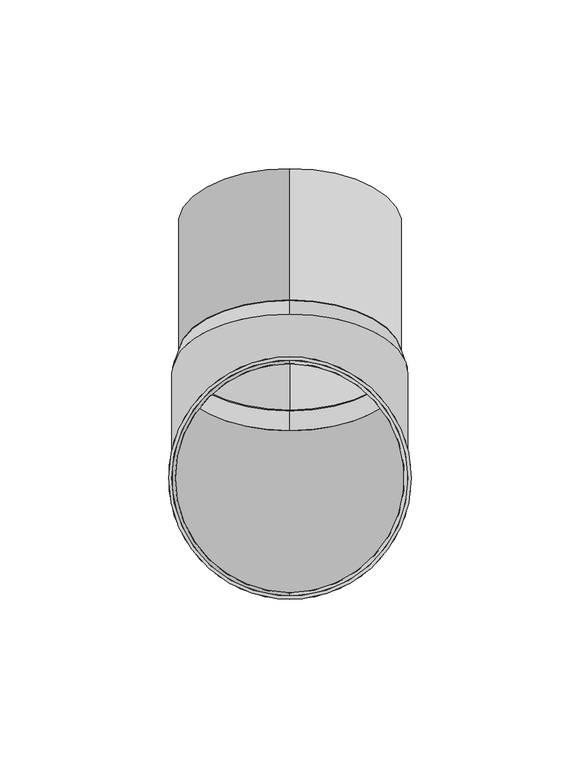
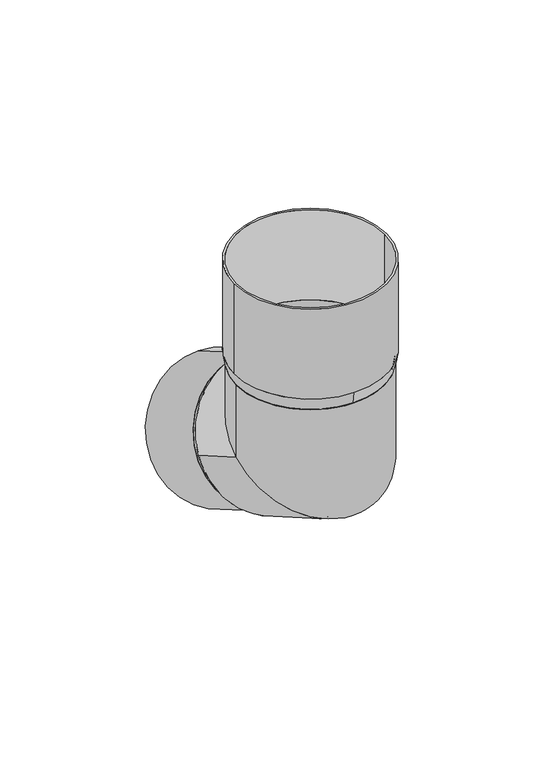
"""IFC4 building model written with IfcOpenShell, lengths in millimetres: proxy geometry, GROVIK_Downpipe_Knee : N70_60°_Down."""

import ifcopenshell
import ifcopenshell.guid

model = None  # the IFC model being written
_history = None  # IfcOwnerHistory: only IFC2X3 demands one
_inside = {}  # id of a spatial element -> (the spatial element, [elements in it])
_under = {}  # id of a project, library or spatial element -> (it, [spatial elements below it])
_declared = {}  # id of a project -> (the project, [libraries it declares])
_typed = {}  # id of a type object -> (the type object, [elements of that type])
_made_of = {}  # id of a material, layer set ... -> (it, [elements and type objects made of it])


def new_model(schema):
    """Start an empty IFC model of exactly this schema.

    Asked for "IFC4X3", IfcOpenShell would pick the latest addendum, in which some entities
    have other attributes; the version numbers below select the first issue.
    IFC2X3 requires an IfcOwnerHistory on every rooted entity: one is made here for all.
    """
    global model, _history
    if schema == "IFC4X3":
        model = ifcopenshell.file(schema_version=(4, 3, 0, 0))
    else:
        model = ifcopenshell.file(schema=schema)
    _inside.clear()
    _under.clear()
    _declared.clear()
    _typed.clear()
    _made_of.clear()
    _history = None
    if model.schema == "IFC2X3":
        org = make("IfcOrganization", Name="unknown")
        user = make(
            "IfcPersonAndOrganization",
            ThePerson=make("IfcPerson", FamilyName="unknown"),
            TheOrganization=org,
        )
        app = make(
            "IfcApplication",
            ApplicationDeveloper=org,
            Version="unknown",
            ApplicationFullName="unknown",
            ApplicationIdentifier="unknown",
        )
        _history = make(
            "IfcOwnerHistory",
            OwningUser=user,
            OwningApplication=app,
            ChangeAction="ADDED",
            CreationDate=0,
        )
    return model


def make(cls, **values):
    """One entity of the class cls with the attributes given. An attribute that is None is left unset."""
    return model.create_entity(
        cls, **{name: value for name, value in values.items() if value is not None}
    )


def rooted(cls, **values):
    """An entity with a GlobalId (a new one), such as an element, a storey or a relation."""
    return make(cls, GlobalId=ifcopenshell.guid.new(), OwnerHistory=_history, **values)


def si_unit(unit_type, name, prefix=None):
    """IfcSIUnit, for example si_unit("LENGTHUNIT", "METRE", prefix="MILLI")."""
    return make("IfcSIUnit", UnitType=unit_type, Prefix=prefix, Name=name)


def assignment(units):
    """IfcUnitAssignment: the units of a project."""
    return None if units is None else make("IfcUnitAssignment", Units=units)


def point(xyz):
    """IfcCartesianPoint."""
    return None if xyz is None else make("IfcCartesianPoint", Coordinates=xyz)


def direction(xyz):
    """IfcDirection."""
    return None if xyz is None else make("IfcDirection", DirectionRatios=xyz)


def frame(location, z_axis=None, x_axis=None):
    """IfcAxis2Placement3D, a coordinate frame: its origin and axes. An axis left out is left unset."""
    return make(
        "IfcAxis2Placement3D",
        Location=point(location),
        Axis=direction(z_axis),
        RefDirection=direction(x_axis),
    )


def frame_2d(location, x_axis=None):
    """IfcAxis2Placement2D, a coordinate frame in the plane: its origin and x axis."""
    return make(
        "IfcAxis2Placement2D", Location=point(location), RefDirection=direction(x_axis)
    )


def origin():
    """The frame at (0, 0, 0) with its axes left unset."""
    return frame((0.0, 0.0, 0.0))


def origin_with_axes():
    """The frame at (0, 0, 0) with the z axis (0, 0, 1) and the x axis (1, 0, 0) written out."""
    return frame((0.0, 0.0, 0.0), z_axis=(0.0, 0.0, 1.0), x_axis=(1.0, 0.0, 0.0))


def origin_2d():
    """The frame at (0, 0) in the plane with its x axis left unset."""
    return frame_2d((0.0, 0.0))


def place(relative_to, where):
    """IfcLocalPlacement: puts the frame where relative to a parent placement (None: the world)."""
    return make(
        "IfcLocalPlacement", PlacementRelTo=relative_to, RelativePlacement=where
    )


def context(
    kind, dimensions, precision=None, world=None, true_north=None, identifier=None
):
    """IfcGeometricRepresentationContext, for example the 3D "Model" context."""
    return make(
        "IfcGeometricRepresentationContext",
        ContextIdentifier=identifier,
        ContextType=kind,
        CoordinateSpaceDimension=dimensions,
        Precision=precision,
        WorldCoordinateSystem=world,
        TrueNorth=true_north,
    )


def project(units=None, contexts=None):
    """IfcProject with its units and contexts."""
    return rooted(
        "IfcProject",
        Name="project",
        RepresentationContexts=contexts,
        UnitsInContext=assignment(units),
    )


def spatial(cls, under=None, at=None, **own):
    """A site, building, storey or space (cls), placed at a placement, below another one or the project."""
    s = rooted(cls, ObjectPlacement=at, **own)
    if under is not None:
        _under.setdefault(under.id(), (under, []))[1].append(s)
    return s


def polyline(points):
    """IfcPolyline through the points."""
    return make("IfcPolyline", Points=[point(p) for p in points])


def circle_curve(where, radius):
    """IfcCircle in the frame where."""
    return make("IfcCircle", Position=where, Radius=radius)


def ellipse_curve(where, semi_axis1, semi_axis2):
    """IfcEllipse in the frame where."""
    return make(
        "IfcEllipse", Position=where, SemiAxis1=semi_axis1, SemiAxis2=semi_axis2
    )


def trimmed(basis, trim1, trim2, sense, master):
    """IfcTrimmedCurve: the piece of a basis curve between two trims."""
    return make(
        "IfcTrimmedCurve",
        BasisCurve=basis,
        Trim1=trim1,
        Trim2=trim2,
        SenseAgreement=sense,
        MasterRepresentation=master,
    )


def segment(curve, same_sense, transition):
    """IfcCompositeCurveSegment."""
    return make(
        "IfcCompositeCurveSegment",
        Transition=transition,
        SameSense=same_sense,
        ParentCurve=curve,
    )


def composite_curve(segments, self_intersect=None):
    """IfcCompositeCurve: segments joined end to end."""
    return make("IfcCompositeCurve", Segments=segments, SelfIntersect=self_intersect)


def outline(outer, holes=None, kind="AREA"):
    """IfcArbitraryClosedProfileDef: a profile drawn as a closed curve; with holes, ...WithVoids."""
    if holes is None:
        return make("IfcArbitraryClosedProfileDef", ProfileType=kind, OuterCurve=outer)
    return make(
        "IfcArbitraryProfileDefWithVoids",
        ProfileType=kind,
        OuterCurve=outer,
        InnerCurves=holes,
    )


def extrude(swept, where, along, depth):
    """IfcExtrudedAreaSolid: the profile swept, set in the frame where, extruded along a direction by depth."""
    return make(
        "IfcExtrudedAreaSolid",
        SweptArea=swept,
        Position=where,
        ExtrudedDirection=direction(along),
        Depth=depth,
    )


def shape(context_of_items, identifier, shape_type, items):
    """IfcShapeRepresentation: the items that make up one representation, for example the "Body"."""
    return make(
        "IfcShapeRepresentation",
        ContextOfItems=context_of_items,
        RepresentationIdentifier=identifier,
        RepresentationType=shape_type,
        Items=items,
    )


def source(mapping_origin, context_of_items, identifier, shape_type, items):
    """IfcRepresentationMap: a shape defined once, which mapped items show again and again."""
    return make(
        "IfcRepresentationMap",
        MappingOrigin=mapping_origin,
        MappedRepresentation=shape(context_of_items, identifier, shape_type, items),
    )


def transform(
    local_origin,
    x_axis=None,
    y_axis=None,
    z_axis=None,
    scale=None,
    scale2=None,
    scale3=None,
    uniform=True,
):
    """IfcCartesianTransformationOperator3D, or its non-uniform kind. x_axis, y_axis, z_axis: its Axis1, 2, 3."""
    if uniform:
        return make(
            "IfcCartesianTransformationOperator3D",
            Axis1=direction(x_axis),
            Axis2=direction(y_axis),
            LocalOrigin=point(local_origin),
            Scale=scale,
            Axis3=direction(z_axis),
        )
    return make(
        "IfcCartesianTransformationOperator3DnonUniform",
        Axis1=direction(x_axis),
        Axis2=direction(y_axis),
        LocalOrigin=point(local_origin),
        Scale=scale,
        Axis3=direction(z_axis),
        Scale2=scale2,
        Scale3=scale3,
    )


def mapped(mapping_source, mapping_target):
    """IfcMappedItem: shows the shape of a source again, moved by a transform."""
    return make(
        "IfcMappedItem", MappingSource=mapping_source, MappingTarget=mapping_target
    )


def made_of(thing, what):
    """Note that an element or type object is made of a material, layer set ...; save() writes the relation."""
    if what is not None:
        _made_of.setdefault(what.id(), (what, []))[1].append(thing)
    return thing


def element(
    cls,
    number,
    at=None,
    inside=None,
    cuts=None,
    type_object=None,
    material=None,
    context=None,
    identifier="Body",
    shape_type=None,
    held_by="IfcProductDefinitionShape",
    body=None,
    shapes=None,
    **own,
):
    """One element of the class cls, such as IfcWall. Its Tag is "e" and its number.

    at: its placement. inside: the storey or other place that contains it. cuts: it is an
    opening in that element (IfcRelVoidsElement). A single representation is given by context,
    identifier, shape_type and body (its items); several are given by shapes. held_by: the class
    of the entity that holds the representations. save() writes the other relations.
    """
    e = rooted(cls, Tag="e%d" % number, ObjectPlacement=at, **own)
    if body is not None:
        shapes = [shape(context, identifier, shape_type, body)]
    if shapes is not None:
        e.Representation = make(held_by, Representations=shapes)
    if inside is not None:
        _inside.setdefault(inside.id(), (inside, []))[1].append(e)
    if cuts is not None:
        rooted(
            "IfcRelVoidsElement", RelatingBuildingElement=cuts, RelatedOpeningElement=e
        )
    if type_object is not None:
        _typed.setdefault(type_object.id(), (type_object, []))[1].append(e)
    return made_of(e, material)


def aggregate(whole, parts):
    """IfcRelAggregates: a whole, such as a stair, and the parts it consists of."""
    return rooted("IfcRelAggregates", RelatingObject=whole, RelatedObjects=parts)


def save(model, path):
    """Write the relations noted so far, then the file.

    IfcRelAggregates (storeys below a building ...), IfcRelContainedInSpatialStructure (elements
    in a storey), IfcRelDefinesByType, IfcRelAssociatesMaterial and IfcRelDeclares: one each for
    every whole, place, type object, material and project.
    """
    for whole, parts in _under.values():
        aggregate(whole, parts)
    for where, things in _inside.values():
        rooted(
            "IfcRelContainedInSpatialStructure",
            RelatedElements=things,
            RelatingStructure=where,
        )
    for kind, things in _typed.values():
        rooted("IfcRelDefinesByType", RelatedObjects=things, RelatingType=kind)
    for what, things in _made_of.values():
        rooted("IfcRelAssociatesMaterial", RelatedObjects=things, RelatingMaterial=what)
    for by, libraries in _declared.values():
        rooted("IfcRelDeclares", RelatingContext=by, RelatedDefinitions=libraries)
    model.write(path)


def plane_surface(at):
    """IfcPlane: the flat surface through the origin of the frame at, square to its z axis."""
    return make("IfcPlane", Position=at)


def cylinder_surface(at, radius):
    """IfcCylindricalSurface: all points at the distance radius from the z axis of the frame at."""
    return make("IfcCylindricalSurface", Position=at, Radius=radius)


def revolved_surface(curve, axis_point, axis_direction):
    """IfcSurfaceOfRevolution: the curve turned about the line through axis_point along axis_direction."""
    return make(
        "IfcSurfaceOfRevolution",
        SweptCurve=make("IfcArbitraryOpenProfileDef", ProfileType="CURVE", Curve=curve),
        AxisPosition=make("IfcAxis1Placement", Location=point(axis_point), Axis=direction(axis_direction)),
    )


def advanced_brep(points, edges, surfaces, faces):
    """IfcAdvancedBrep: a solid bounded by faces that lie on surfaces and meet in shared edges.

    An edge is (start, end): straight between two places in points (the first is 0);
    or (start, end, curve); or (start, end, curve, False) where it runs against its curve.
    A face is (place in surfaces, loops), or (place, loops, False) where it looks against
    its surface's normal. A loop lists edges by number (the first is 1), with a minus sign
    where the edge is run from its end to its start. The first loop is the outer one.
    """
    corners = [point(p) for p in points]
    vertices = [make("IfcVertexPoint", VertexGeometry=c) for c in corners]
    made = []
    for start, end, *more in edges:
        made.append(
            make(
                "IfcEdgeCurve",
                EdgeStart=vertices[start],
                EdgeEnd=vertices[end],
                EdgeGeometry=more[0] if more else make("IfcPolyline", Points=[corners[start], corners[end]]),
                SameSense=more[1] if len(more) > 1 else True,
            )
        )
    hull = []
    for where, loops, *sense in faces:
        bounds = []
        for j, loop in enumerate(loops):
            ring = [make("IfcOrientedEdge", EdgeElement=made[abs(k) - 1], Orientation=k > 0) for k in loop]
            bounds.append(
                make(
                    "IfcFaceOuterBound" if j == 0 else "IfcFaceBound",
                    Bound=make("IfcEdgeLoop", EdgeList=ring),
                    Orientation=True,
                )
            )
        hull.append(make("IfcAdvancedFace", Bounds=bounds, FaceSurface=surfaces[where], SameSense=sense[0] if sense else True))
    return make("IfcAdvancedBrep", Outer=make("IfcClosedShell", CfsFaces=hull))


def generic_models_3fac9458(model_context):
    return source(origin(), model_context, "Body", "SolidModel", [
        extrude(outline(composite_curve([segment(trimmed(circle_curve(origin_2d(), 36.0), [point((-36.0, 0.0))], [point((36.0, 0.0))], False, "CARTESIAN"), True, "CONTINUOUS"), segment(trimmed(circle_curve(origin_2d(), 36.0), [point((36.0, 0.0))], [point((-36.0, 0.0))], False, "CARTESIAN"), True, "CONTINUOUS")], self_intersect=False), holes=[composite_curve([segment(trimmed(circle_curve(origin_2d(), 35.0), [point((-35.0, 0.0))], [point((35.0, 0.0))], True, "CARTESIAN"), True, "CONTINUOUS"), segment(trimmed(circle_curve(origin_2d(), 35.0), [point((35.0, 0.0))], [point((-35.0, 0.0))], True, "CARTESIAN"), True, "CONTINUOUS")], self_intersect=False)]), frame((0.0, 0.0, 6.0), z_axis=(0.0, 0.0, 1.0), x_axis=(1.0, 0.0, 0.0)), (0.0, 0.0, 1.0), 45.0),
        advanced_brep(
        [(-35.0, 0.0, 0.0), (35.0, 0.0, 0.0), (-34.0, 0.0, 0.0), (34.0, 0.0, 0.0), (-34.0, 0.0, -35.9), (34.0, 0.0, -35.9), (-35.0, 0.0, -35.9), (35.0, 0.0, -35.9), (-35.0, 31.090312, -53.85), (35.0, 31.090312, -53.85), (-34.0, 31.090312, -53.85), (34.0, 31.090312, -53.85)],
        [
            (0, 1, circle_curve(origin_with_axes(), 35.0)),
            (1, 0, circle_curve(origin_with_axes(), 35.0)),
            (2, 3, circle_curve(frame((0.0, 0.0, 0.0), z_axis=(0.0, 0.0, -1.0), x_axis=(1.0, 0.0, 0.0)), 34.0)),
            (3, 2, circle_curve(frame((0.0, 0.0, 0.0), z_axis=(0.0, 0.0, -1.0), x_axis=(1.0, 0.0, 0.0)), 34.0)),
            (2, 4),
            (4, 5, ellipse_curve(frame((0.0, 0.0, -35.9), z_axis=(0.0, 0.49999999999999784, -0.86602540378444), x_axis=(0.0, -0.86602540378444, -0.49999999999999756)), 39.2598183, 34.0)),
            (5, 3),
            (5, 4, ellipse_curve(frame((0.0, 0.0, -35.9), z_axis=(0.0, 0.49999999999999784, -0.86602540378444), x_axis=(0.0, -0.86602540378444, -0.49999999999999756)), 39.2598183, 34.0)),
            (0, 6),
            (6, 7, ellipse_curve(frame((0.0, 0.0, -35.9), z_axis=(0.0, -0.49999999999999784, 0.86602540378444), x_axis=(0.0, 0.86602540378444, 0.49999999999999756)), 40.4145188, 35.0)),
            (7, 1),
            (7, 6, ellipse_curve(frame((0.0, 0.0, -35.9), z_axis=(0.0, -0.49999999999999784, 0.86602540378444), x_axis=(0.0, 0.86602540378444, 0.49999999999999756)), 40.4145188, 35.0)),
            (8, 9, circle_curve(frame((0.0, 31.090312, -53.85), z_axis=(0.0, 0.866025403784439, -0.4999999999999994), x_axis=(1.0, 0.0, 0.0)), 35.0)),
            (9, 8, circle_curve(frame((0.0, 31.090312, -53.85), z_axis=(0.0, 0.866025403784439, -0.4999999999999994), x_axis=(1.0, 0.0, 0.0)), 35.0)),
            (10, 11, circle_curve(frame((0.0, 31.090312, -53.85), z_axis=(0.0, -0.866025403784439, 0.4999999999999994), x_axis=(1.0, 0.0, 0.0)), 34.0)),
            (11, 10, circle_curve(frame((0.0, 31.090312, -53.85), z_axis=(0.0, -0.866025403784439, 0.4999999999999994), x_axis=(1.0, 0.0, 0.0)), 34.0)),
            (4, 10),
            (11, 5),
            (6, 8),
            (9, 7),
        ],
        [
            plane_surface(origin_with_axes()),
            revolved_surface(polyline([(34.0, 0.0, -55.5299091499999), (34.0, 0.0, 0.0)]), (0.0, 0.0, 0.0), (0.0, 0.0, -1.0)),
            cylinder_surface(origin_with_axes(), 35.0),
            plane_surface(frame((0.0, 31.090312, -53.85), z_axis=(0.0, 0.866025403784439, -0.4999999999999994), x_axis=(1.0, 0.0, 0.0))),
            revolved_surface(polyline([(34.0, 31.090311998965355, -53.85000000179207), (34.0, -16.99999999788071, -26.08504542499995)]), (0.0, 0.0, -35.9), (0.0, 0.866025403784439, -0.4999999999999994)),
            cylinder_surface(frame((0.0, 0.0, -35.9), z_axis=(0.0, -0.866025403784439, 0.4999999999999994), x_axis=(1.0, 0.0, 0.0)), 35.0),
        ],
        [
            (0, [[1, 2], [3, 4]]),
            (1, [[-3, 5, 6, 7]]),
            (1, [[-4, -7, 8, -5]]),
            (2, [[-1, 9, 10, 11]]),
            (2, [[-2, -11, 12, -9]]),
            (3, [[13, 14], [15, 16]]),
            (4, [[-6, 17, -16, 18]]),
            (4, [[-8, -18, -15, -17]]),
            (5, [[-10, 19, -14, 20]]),
            (5, [[-12, -20, -13, -19]]),
        ],
    ),
        extrude(outline(composite_curve([segment(trimmed(circle_curve(origin_2d(), 33.2), [point((0.0, 33.2))], [point((0.0, -33.2))], False, "CARTESIAN"), True, "CONTINUOUS"), segment(trimmed(circle_curve(origin_2d(), 33.2), [point((0.0, -33.2))], [point((0.0, 33.2))], False, "CARTESIAN"), True, "CONTINUOUS")], self_intersect=False), holes=[composite_curve([segment(trimmed(circle_curve(origin_2d(), 32.2), [point((0.0, 32.2))], [point((0.0, -32.2))], True, "CARTESIAN"), True, "CONTINUOUS"), segment(trimmed(circle_curve(origin_2d(), 32.2), [point((0.0, -32.2))], [point((0.0, 32.2))], True, "CARTESIAN"), True, "CONTINUOUS")], self_intersect=False)]), frame((0.0, 75.2576076, -79.35), z_axis=(0.0, -0.8660254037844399, 0.4999999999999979), x_axis=(1.0, 0.0, 0.0)), (0.0, 0.0, 1.0), 45.0),
        advanced_brep(
        [(0.0, 36.0, 6.0), (0.0, -36.0, 6.0), (0.0, 35.0, 6.0), (0.0, -35.0, 6.0), (0.0, 35.0, 0.0), (0.0, -35.0, 0.0), (0.0, -34.0, 0.0), (0.0, 34.0, 0.0)],
        [
            (0, 1, circle_curve(frame((0.0, 0.0, 6.0), z_axis=(0.0, 0.0, 1.0), x_axis=(0.0, 1.0, 0.0)), 36.0)),
            (1, 0, circle_curve(frame((0.0, 0.0, 6.0), z_axis=(0.0, 0.0, 1.0), x_axis=(0.0, -1.0, 0.0)), 36.0)),
            (2, 3, circle_curve(frame((0.0, 0.0, 6.0), z_axis=(0.0, 0.0, -1.0), x_axis=(0.0, -1.0, 0.0)), 35.0)),
            (3, 2, circle_curve(frame((0.0, 0.0, 6.0), z_axis=(0.0, 0.0, -1.0), x_axis=(0.0, 1.0, 0.0)), 35.0)),
            (4, 5, circle_curve(frame((0.0, 0.0, 0.0), z_axis=(0.0, 0.0, -1.0), x_axis=(0.0, -1.0, 0.0)), 35.0)),
            (5, 4, circle_curve(frame((0.0, 0.0, 0.0), z_axis=(0.0, 0.0, -1.0), x_axis=(0.0, 1.0, 0.0)), 35.0)),
            (6, 7, circle_curve(frame((0.0, 0.0, 0.0), z_axis=(0.0, 0.0, 1.0), x_axis=(0.0, -1.0, 0.0)), 34.0)),
            (7, 6, circle_curve(frame((0.0, 0.0, 0.0), z_axis=(0.0, 0.0, 1.0), x_axis=(0.0, 1.0, 0.0)), 34.0)),
            (1, 5),
            (4, 0),
            (6, 3),
            (2, 7),
        ],
        [
            plane_surface(frame((0.0, 0.0, 6.0), z_axis=(0.0, 0.0, 1.0), x_axis=(-1.0, 0.0, 0.0))),
            plane_surface(frame((0.0, 0.0, 0.0), z_axis=(0.0, 0.0, -1.0), x_axis=(-1.0, 0.0, 0.0))),
            revolved_surface(polyline([(0.0, 35.0, 0.0), (0.0, 36.0, 6.0)]), (0.0, 0.0, -210.0), (0.0, 0.0, 1.0)),
            revolved_surface(polyline([(0.0, -35.0, 0.0), (0.0, -36.0, 6.0)]), (0.0, 0.0, -210.0), (0.0, 0.0, 1.0)),
            revolved_surface(polyline([(0.0, -35.0, 6.0), (0.0, -34.0, 0.0)]), (0.0, 0.0, -204.0), (0.0, 0.0, 1.0)),
        ],
        [
            (0, [[1, 2], [3, 4]]),
            (1, [[5, 6], [7, 8]]),
            (2, [[-2, 9, -5, 10]]),
            (3, [[-1, -10, -6, -9]]),
            (4, [[11, -3, 12, -7]]),
            (4, [[-11, -8, -12, -4]]),
        ],
    ),
        advanced_brep(
        [(0.0, 19.6864644, -85.6020434), (0.0, 52.8864644, -28.0979566), (0.0, 20.1864644, -84.736018), (0.0, 52.3864644, -28.963982), (0.0, 13.590312, -84.1608891), (0.0, 48.590312, -23.5391109), (0.0, 48.090312, -24.4051363), (0.0, 14.090312, -83.2948637)],
        [
            (0, 1, circle_curve(frame((0.0, 36.2864644, -56.85), z_axis=(0.0, 0.8660254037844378, -0.5000000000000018), x_axis=(0.0, -0.5000000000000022, -0.8660254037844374)), 33.2)),
            (1, 0, circle_curve(frame((0.0, 36.2864644, -56.85), z_axis=(0.0, 0.8660254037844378, -0.5000000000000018), x_axis=(0.0, 0.5000000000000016, 0.8660254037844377)), 33.2)),
            (2, 3, circle_curve(frame((0.0, 36.2864644, -56.85), z_axis=(0.0, -0.8660254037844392, 0.4999999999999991), x_axis=(0.0, 0.49999999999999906, 0.8660254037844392)), 32.2)),
            (3, 2, circle_curve(frame((0.0, 36.2864644, -56.85), z_axis=(0.0, -0.8660254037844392, 0.4999999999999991), x_axis=(0.0, -0.49999999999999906, -0.8660254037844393)), 32.2)),
            (4, 5, circle_curve(frame((0.0, 31.090312, -53.85), z_axis=(0.0, -0.8660254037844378, 0.5000000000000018), x_axis=(0.0, 0.5000000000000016, 0.8660254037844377)), 35.0)),
            (5, 4, circle_curve(frame((0.0, 31.090312, -53.85), z_axis=(0.0, -0.8660254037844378, 0.5000000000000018), x_axis=(0.0, -0.5000000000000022, -0.8660254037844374)), 35.0)),
            (6, 7, circle_curve(frame((0.0, 31.090312, -53.85), z_axis=(0.0, 0.8660254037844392, -0.4999999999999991), x_axis=(0.0, 0.49999999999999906, 0.8660254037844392)), 34.0)),
            (7, 6, circle_curve(frame((0.0, 31.090312, -53.85), z_axis=(0.0, 0.8660254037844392, -0.4999999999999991), x_axis=(0.0, -0.49999999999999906, -0.8660254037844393)), 34.0)),
            (1, 5),
            (4, 0),
            (6, 3),
            (2, 7),
        ],
        [
            plane_surface(frame((0.0, 36.2864644, -56.85), z_axis=(0.0, 0.866025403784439, -0.49999999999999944), x_axis=(-1.0, 0.0, 0.0))),
            plane_surface(frame((0.0, 31.090312, -53.85), z_axis=(0.0, -0.866025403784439, 0.49999999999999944), x_axis=(-1.0, 0.0, 0.0))),
            revolved_surface(polyline([(0.0, 52.88646440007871, -28.097956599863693), (0.0, 48.59031197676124, -23.539110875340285)]), (0.0, 132.1266091, -112.1833333), (0.0, -0.8660254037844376, 0.5000000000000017)),
            revolved_surface(polyline([(0.0, 19.68646442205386, -85.60204337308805), (0.0, 13.590311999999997, -84.1608891)]), (0.0, 132.1266091, -112.1833333), (0.0, -0.8660254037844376, 0.5000000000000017)),
            revolved_surface(polyline([(0.0, 48.090311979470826, -24.40513627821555), (0.0, 52.386464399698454, -28.96398200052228)]), (0.0, 129.2398578, -110.5166667), (0.0, -0.8660254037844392, 0.4999999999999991)),
        ],
        [
            (0, [[1, 2], [3, 4]]),
            (1, [[5, 6], [7, 8]]),
            (2, [[-2, 9, -5, 10]]),
            (3, [[-1, -10, -6, -9]]),
            (4, [[11, -3, 12, -7]]),
            (4, [[-11, -8, -12, -4]]),
        ],
    ),
    ])


if __name__ == "__main__":
    model = new_model("IFC4")
    model_context = context("Model", 3, world=origin())
    ifc_project = project(units=[si_unit("LENGTHUNIT", "METRE", prefix="MILLI")], contexts=[model_context])
    site = spatial("IfcSite", under=ifc_project)
    building = spatial("IfcBuilding", under=site)
    placement = place(None, origin())
    generic_models_shape = generic_models_3fac9458(model_context)
    element("IfcBuildingElementProxy", 1, Name="GROVIK_Downpipe_Knee : N70_60°_Down", ObjectType="GROVIK_Downpipe_Knee : N70_60°_Down", at=placement, inside=building, context=model_context, shape_type="MappedRepresentation", body=[
        mapped(generic_models_shape, transform((0.0, 0.0, 0.0), x_axis=(1.0, 0.0, 0.0), y_axis=(0.0, 1.0, 0.0), z_axis=(0.0, 0.0, 1.0))),
    ])
    save(model, "model.ifc")
